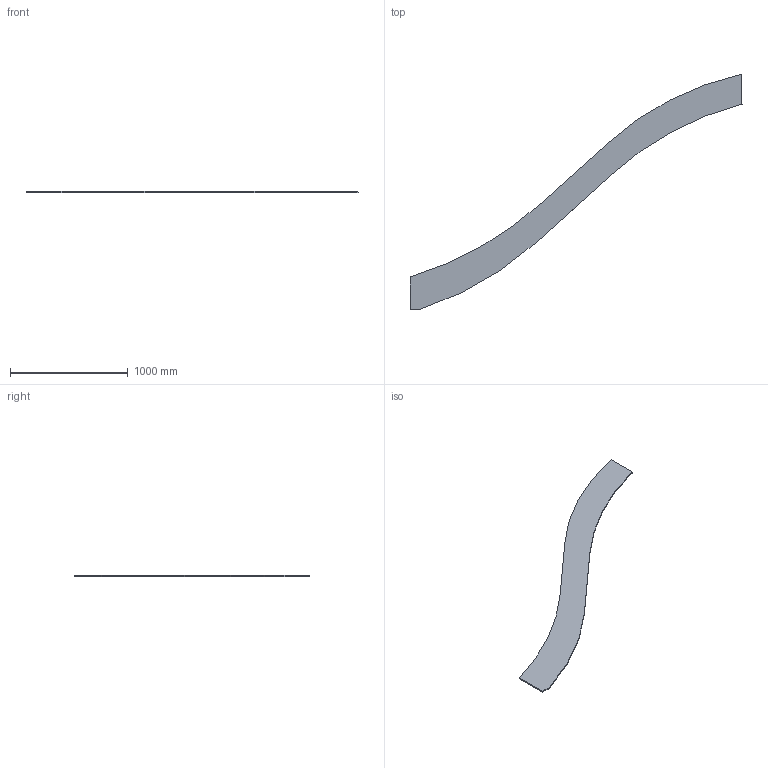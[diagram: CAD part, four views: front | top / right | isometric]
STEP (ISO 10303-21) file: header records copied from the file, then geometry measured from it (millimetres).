
FILE_DESCRIPTION(/* description */ (''),/* implementation_level */ '2;1');
FILE_NAME(/* name */ 'Pos114-Plaatwerk D= 10-S235JRG2-3st',/* time_stamp */ '2024-08-06T13:37:44+02:00',/* author */ (''),/* organization */ (''),/* preprocessor_version */ 'ST-DEVELOPER v16.5',/* originating_system */ 'HiCAD 2024 2901.2 Build 361',/* authorisation */ '');
FILE_SCHEMA (('AUTOMOTIVE_DESIGN { 1 0 10303 214 1 1 1 1 }'));
Length unit declared in the file: millimetre
Products named in the file (1): Pos114-Plaatwerk D= 10-S235JRG2-3st
Bounding box: 2825 x 1999.78 x 10 mm (x, y, z)
Volume: 8215794.5 mm3; surface area: 1715726.3 mm2
Topology: 1 solids, 1 shells, 13 faces, 77 edges, 110 vertices
Faces by surface type: plane 9, cylinder 4
Entity records: 1361 total; most frequent: CARTESIAN_POINT 200, PRESENTATION_STYLE_ASSIGNMENT 111, DIRECTION 111, VECTOR 69, LINE 69, COLOUR_RGB 68, DRAUGHTING_PRE_DEFINED_CURVE_FONT 66, CURVE_STYLE 66
